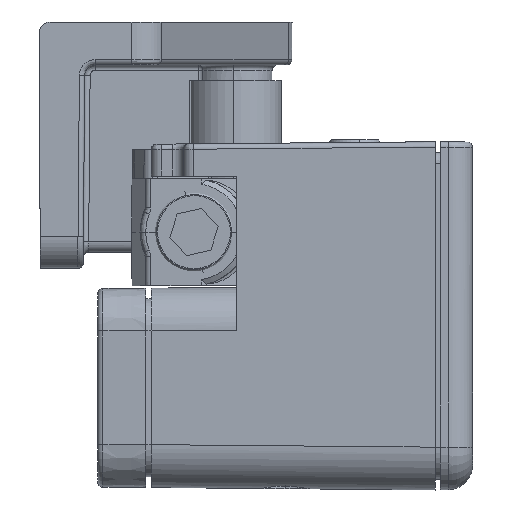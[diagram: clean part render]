
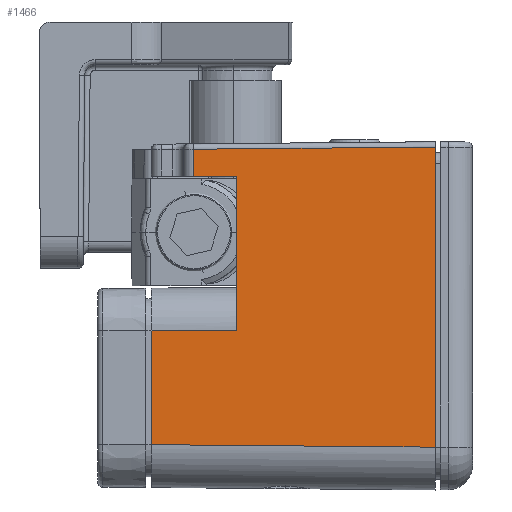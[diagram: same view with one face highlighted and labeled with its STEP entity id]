
A CAD part, left-side view. The second image highlights one B-rep face of the part: STEP entity #1466.
In plain terms, the highlighted planar face has unit normal (-1, 0.009, 0).
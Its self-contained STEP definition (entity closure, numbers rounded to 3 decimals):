
#91 = LINE ( 'NONE', #27168, #6922 ) ;
#561 = CARTESIAN_POINT ( 'NONE',  ( -32.589, 18.5, -1.343 ) ) ;
#786 = VECTOR ( 'NONE', #6651, 1000. ) ;
#956 = VERTEX_POINT ( 'NONE', #3949 ) ;
#1466 = ADVANCED_FACE ( 'NONE', ( #30672 ), #18871, .T. ) ;
#1664 = CARTESIAN_POINT ( 'NONE',  ( -32.75, 0.03, 12.819 ) ) ;
#2221 = EDGE_CURVE ( 'NONE', #24419, #24978, #91, .T. ) ;
#2513 = ORIENTED_EDGE ( 'NONE', *, *, #2221, .T. ) ;
#2656 = DIRECTION ( 'NONE',  ( 0., 0., 1. ) ) ;
#3305 = ORIENTED_EDGE ( 'NONE', *, *, #30145, .T. ) ;
#3733 = LINE ( 'NONE', #23596, #30336 ) ;
#3897 = EDGE_CURVE ( 'NONE', #11699, #6962, #12458, .T. ) ;
#3949 = CARTESIAN_POINT ( 'NONE',  ( -32.75, 0., -12.25 ) ) ;
#4692 = DIRECTION ( 'NONE',  ( 0.009, 1., -0.009 ) ) ;
#5713 = DIRECTION ( 'NONE',  ( -0.009, -1., -0.009 ) ) ;
#6155 = VERTEX_POINT ( 'NONE', #23825 ) ;
#6651 = DIRECTION ( 'NONE',  ( 0., 0., 1. ) ) ;
#6922 = VECTOR ( 'NONE', #4692, 1000. ) ;
#6962 = VERTEX_POINT ( 'NONE', #26584 ) ;
#7096 = LINE ( 'NONE', #7575, #13002 ) ;
#7384 = ORIENTED_EDGE ( 'NONE', *, *, #31732, .T. ) ;
#7575 = CARTESIAN_POINT ( 'NONE',  ( -32.589, 18.5, 16.25 ) ) ;
#8107 = CARTESIAN_POINT ( 'NONE',  ( -32.554, 22.509, 13.015 ) ) ;
#9428 = ORIENTED_EDGE ( 'NONE', *, *, #3897, .T. ) ;
#10173 = ORIENTED_EDGE ( 'NONE', *, *, #18479, .F. ) ;
#10479 = LINE ( 'NONE', #23413, #21092 ) ;
#11699 = VERTEX_POINT ( 'NONE', #25349 ) ;
#12289 = CARTESIAN_POINT ( 'NONE',  ( -32.75, -0.004, 15.75 ) ) ;
#12458 = LINE ( 'NONE', #12289, #17136 ) ;
#13002 = VECTOR ( 'NONE', #2656, 1000. ) ;
#13264 = AXIS2_PLACEMENT_3D ( 'NONE', #23761, #15919, #15763 ) ;
#14293 = EDGE_LOOP ( 'NONE', ( #19987, #9428, #7384, #24665, #10173, #2513, #23593, #3305 ) ) ;
#15074 = EDGE_CURVE ( 'NONE', #6155, #24978, #29606, .T. ) ;
#15763 = DIRECTION ( 'NONE',  ( -0.009, -1., 0. ) ) ;
#15919 = DIRECTION ( 'NONE',  ( -1., 0.009, 0. ) ) ;
#17136 = VECTOR ( 'NONE', #21825, 1000. ) ;
#17985 = VECTOR ( 'NONE', #27657, 1000. ) ;
#18479 = EDGE_CURVE ( 'NONE', #24419, #23789, #7096, .T. ) ;
#18871 = PLANE ( 'NONE',  #13264 ) ;
#19987 = ORIENTED_EDGE ( 'NONE', *, *, #20399, .T. ) ;
#20399 = EDGE_CURVE ( 'NONE', #956, #11699, #3733, .T. ) ;
#21092 = VECTOR ( 'NONE', #5713, 1000. ) ;
#21681 = DIRECTION ( 'NONE',  ( -0.009, -1., -0.009 ) ) ;
#21825 = DIRECTION ( 'NONE',  ( 0.009, 1., -0.009 ) ) ;
#22218 = CARTESIAN_POINT ( 'NONE',  ( -32.519, 26.5, 0. ) ) ;
#23413 = CARTESIAN_POINT ( 'NONE',  ( -32.748, 0.249, -12.248 ) ) ;
#23593 = ORIENTED_EDGE ( 'NONE', *, *, #15074, .F. ) ;
#23596 = CARTESIAN_POINT ( 'NONE',  ( -32.75, 0., 16.25 ) ) ;
#23761 = CARTESIAN_POINT ( 'NONE',  ( -32.75, 0., 16.25 ) ) ;
#23789 = VERTEX_POINT ( 'NONE', #25783 ) ;
#23825 = CARTESIAN_POINT ( 'NONE',  ( -32.519, 26.5, -12.019 ) ) ;
#24419 = VERTEX_POINT ( 'NONE', #561 ) ;
#24533 = VERTEX_POINT ( 'NONE', #8107 ) ;
#24665 = ORIENTED_EDGE ( 'NONE', *, *, #28276, .T. ) ;
#24978 = VERTEX_POINT ( 'NONE', #26273 ) ;
#25349 = CARTESIAN_POINT ( 'NONE',  ( -32.75, 0., 15.75 ) ) ;
#25783 = CARTESIAN_POINT ( 'NONE',  ( -32.589, 18.5, 12.98 ) ) ;
#26273 = CARTESIAN_POINT ( 'NONE',  ( -32.519, 26.5, -1.412 ) ) ;
#26584 = CARTESIAN_POINT ( 'NONE',  ( -32.554, 22.509, 15.554 ) ) ;
#27168 = CARTESIAN_POINT ( 'NONE',  ( -32.751, -0.152, -1.18 ) ) ;
#27657 = DIRECTION ( 'NONE',  ( 0., 0., -1. ) ) ;
#28137 = LINE ( 'NONE', #30292, #17985 ) ;
#28276 = EDGE_CURVE ( 'NONE', #24533, #23789, #31687, .T. ) ;
#29606 = LINE ( 'NONE', #22218, #786 ) ;
#30145 = EDGE_CURVE ( 'NONE', #6155, #956, #10479, .T. ) ;
#30292 = CARTESIAN_POINT ( 'NONE',  ( -32.554, 22.509, 16.25 ) ) ;
#30336 = VECTOR ( 'NONE', #30829, 1000. ) ;
#30672 = FACE_OUTER_BOUND ( 'NONE', #14293, .T. ) ;
#30829 = DIRECTION ( 'NONE',  ( 0., 0., 1. ) ) ;
#31687 = LINE ( 'NONE', #1664, #31806 ) ;
#31732 = EDGE_CURVE ( 'NONE', #6962, #24533, #28137, .T. ) ;
#31806 = VECTOR ( 'NONE', #21681, 1000. ) ;
